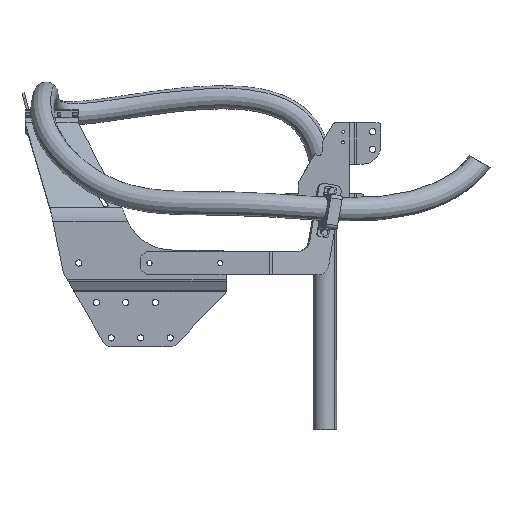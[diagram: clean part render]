
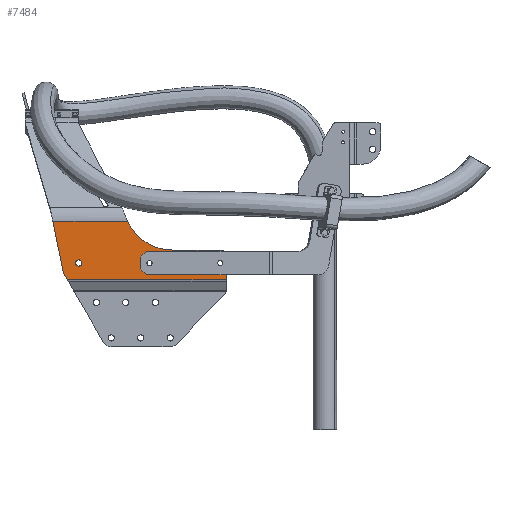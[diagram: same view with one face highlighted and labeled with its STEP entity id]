
A CAD part, front view. The second image highlights one B-rep face of the part: STEP entity #7484.
In plain terms, the highlighted planar face has unit normal (0, -1, 0).
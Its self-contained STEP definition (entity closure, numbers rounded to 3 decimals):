
#409 = CARTESIAN_POINT ( 'NONE',  ( -298.5, -470., 611.9 ) ) ;
#447 = LINE ( 'NONE', #8431, #20491 ) ;
#467 = ORIENTED_EDGE ( 'NONE', *, *, #16594, .F. ) ;
#2278 = EDGE_CURVE ( 'NONE', #56943, #41839, #48140, .T. ) ;
#2710 = CARTESIAN_POINT ( 'NONE',  ( -249.093, -470., 733.9 ) ) ;
#3589 = DIRECTION ( 'NONE',  ( 1., 0., 0. ) ) ;
#4500 = CARTESIAN_POINT ( 'NONE',  ( -303.5, -470., 616.9 ) ) ;
#5377 = CIRCLE ( 'NONE', #86629, 5.25 ) ;
#6746 = ORIENTED_EDGE ( 'NONE', *, *, #17836, .T. ) ;
#7233 = EDGE_CURVE ( 'NONE', #52654, #29468, #72041, .T. ) ;
#7484 = ADVANCED_FACE ( 'NONE', ( #50785, #44176 ), #79985, .T. ) ;
#7767 = AXIS2_PLACEMENT_3D ( 'NONE', #23915, #73407, #44661 ) ;
#7890 = DIRECTION ( 'NONE',  ( 0., -1., 0. ) ) ;
#8053 = CARTESIAN_POINT ( 'NONE',  ( -162.5, -470., 646.9 ) ) ;
#8364 = CARTESIAN_POINT ( 'NONE',  ( -158.5, -470., 598.317 ) ) ;
#8431 = CARTESIAN_POINT ( 'NONE',  ( -303.5, -470., 646.9 ) ) ;
#8918 = VERTEX_POINT ( 'NONE', #17775 ) ;
#10873 = CARTESIAN_POINT ( 'NONE',  ( -427.642, -470., 598.317 ) ) ;
#11293 = ORIENTED_EDGE ( 'NONE', *, *, #51828, .F. ) ;
#11727 = ORIENTED_EDGE ( 'NONE', *, *, #85748, .F. ) ;
#11741 = CARTESIAN_POINT ( 'NONE',  ( 15., -470., 606.9 ) ) ;
#12187 = LINE ( 'NONE', #11741, #67946 ) ;
#12343 = CIRCLE ( 'NONE', #7767, 10. ) ;
#14765 = LINE ( 'NONE', #51062, #61580 ) ;
#14950 = DIRECTION ( 'NONE',  ( 1., 0., 0. ) ) ;
#14963 = DIRECTION ( 'NONE',  ( 0., 0., -1. ) ) ;
#15368 = CIRCLE ( 'NONE', #51513, 5.25 ) ;
#16594 = EDGE_CURVE ( 'NONE', #21381, #49268, #35985, .T. ) ;
#17775 = CARTESIAN_POINT ( 'NONE',  ( -303.5, -470., 636.9 ) ) ;
#17836 = EDGE_CURVE ( 'NONE', #8918, #29799, #14765, .T. ) ;
#18018 = CARTESIAN_POINT ( 'NONE',  ( -293.5, -470., 606.9 ) ) ;
#19085 = CARTESIAN_POINT ( 'NONE',  ( -408.5, -470., 626.9 ) ) ;
#20064 = VECTOR ( 'NONE', #34011, 1000. ) ;
#20287 = CARTESIAN_POINT ( 'NONE',  ( -420.166, -470., 615.369 ) ) ;
#20491 = VECTOR ( 'NONE', #57940, 1000. ) ;
#21381 = VERTEX_POINT ( 'NONE', #10873 ) ;
#21450 = ORIENTED_EDGE ( 'NONE', *, *, #81613, .F. ) ;
#21938 = ORIENTED_EDGE ( 'NONE', *, *, #81849, .T. ) ;
#21949 = ORIENTED_EDGE ( 'NONE', *, *, #57577, .F. ) ;
#22019 = EDGE_LOOP ( 'NONE', ( #21949, #36875, #53515, #6746, #11727, #30140, #21938, #61354, #37453, #39391, #30739, #467, #24869, #72450 ) ) ;
#23432 = DIRECTION ( 'NONE',  ( 0., 1., 0. ) ) ;
#23664 = CARTESIAN_POINT ( 'NONE',  ( -434.855, -470., 612.331 ) ) ;
#23904 = DIRECTION ( 'NONE',  ( 0., 0., 1. ) ) ;
#23915 = CARTESIAN_POINT ( 'NONE',  ( -168.5, -470., 638.9 ) ) ;
#24869 = ORIENTED_EDGE ( 'NONE', *, *, #44279, .F. ) ;
#29468 = VERTEX_POINT ( 'NONE', #4500 ) ;
#29799 = VERTEX_POINT ( 'NONE', #62449 ) ;
#30140 = ORIENTED_EDGE ( 'NONE', *, *, #47712, .T. ) ;
#30739 = ORIENTED_EDGE ( 'NONE', *, *, #53585, .T. ) ;
#30880 = EDGE_LOOP ( 'NONE', ( #11293, #21450 ) ) ;
#33681 = CARTESIAN_POINT ( 'NONE',  ( -413.75, -470., 626.9 ) ) ;
#34011 = DIRECTION ( 'NONE',  ( -1., 0., 0. ) ) ;
#34913 = DIRECTION ( 'NONE',  ( 0.203, 0., -0.979 ) ) ;
#35714 = CARTESIAN_POINT ( 'NONE',  ( -303.5, -470., 606.9 ) ) ;
#35985 = LINE ( 'NONE', #71355, #55421 ) ;
#36875 = ORIENTED_EDGE ( 'NONE', *, *, #7233, .T. ) ;
#37453 = ORIENTED_EDGE ( 'NONE', *, *, #77022, .T. ) ;
#39391 = ORIENTED_EDGE ( 'NONE', *, *, #2278, .T. ) ;
#41839 = VERTEX_POINT ( 'NONE', #23664 ) ;
#43291 = DIRECTION ( 'NONE',  ( -0.707, 0., 0.707 ) ) ;
#44176 = FACE_BOUND ( 'NONE', #30880, .T. ) ;
#44190 = CARTESIAN_POINT ( 'NONE',  ( -158.5, -470., 646.319 ) ) ;
#44279 = EDGE_CURVE ( 'NONE', #60454, #21381, #85787, .T. ) ;
#44661 = DIRECTION ( 'NONE',  ( 1., 0., 0. ) ) ;
#45394 = VECTOR ( 'NONE', #14963, 1000. ) ;
#47035 = CIRCLE ( 'NONE', #59049, 15. ) ;
#47253 = CARTESIAN_POINT ( 'NONE',  ( -408.5, -470., 484.9 ) ) ;
#47685 = CARTESIAN_POINT ( 'NONE',  ( -158.5, -470., 606.9 ) ) ;
#47712 = EDGE_CURVE ( 'NONE', #77471, #88469, #12343, .T. ) ;
#48140 = LINE ( 'NONE', #47253, #70276 ) ;
#48471 = CARTESIAN_POINT ( 'NONE',  ( -452.435, -470., 697.334 ) ) ;
#49050 = CARTESIAN_POINT ( 'NONE',  ( -249.093, -470., 598.317 ) ) ;
#49268 = VERTEX_POINT ( 'NONE', #62528 ) ;
#49887 = VECTOR ( 'NONE', #63661, 1000. ) ;
#50785 = FACE_OUTER_BOUND ( 'NONE', #22019, .T. ) ;
#51062 = CARTESIAN_POINT ( 'NONE',  ( -318.5, -470., 621.9 ) ) ;
#51341 = CARTESIAN_POINT ( 'NONE',  ( -168.5, -470., 648.9 ) ) ;
#51513 = AXIS2_PLACEMENT_3D ( 'NONE', #90241, #75664, #53055 ) ;
#51828 = EDGE_CURVE ( 'NONE', #92739, #81751, #15368, .T. ) ;
#52528 = CARTESIAN_POINT ( 'NONE',  ( -403.25, -470., 626.9 ) ) ;
#52654 = VERTEX_POINT ( 'NONE', #18018 ) ;
#52674 = DIRECTION ( 'NONE',  ( 1., 0., 0. ) ) ;
#53055 = DIRECTION ( 'NONE',  ( 1., 0., 0. ) ) ;
#53515 = ORIENTED_EDGE ( 'NONE', *, *, #58746, .F. ) ;
#53585 = EDGE_CURVE ( 'NONE', #41839, #49268, #47035, .T. ) ;
#54018 = DIRECTION ( 'NONE',  ( -1., 0., 0. ) ) ;
#55421 = VECTOR ( 'NONE', #92072, 1000. ) ;
#56127 = DIRECTION ( 'NONE',  ( 1., 0., 0. ) ) ;
#56943 = VERTEX_POINT ( 'NONE', #48471 ) ;
#57577 = EDGE_CURVE ( 'NONE', #52654, #64368, #12187, .T. ) ;
#57940 = DIRECTION ( 'NONE',  ( -1., 0., 0. ) ) ;
#58746 = EDGE_CURVE ( 'NONE', #8918, #29468, #79536, .T. ) ;
#59049 = AXIS2_PLACEMENT_3D ( 'NONE', #20287, #76854, #56127 ) ;
#60380 = EDGE_CURVE ( 'NONE', #60454, #64368, #88461, .T. ) ;
#60454 = VERTEX_POINT ( 'NONE', #8364 ) ;
#60479 = EDGE_CURVE ( 'NONE', #65846, #85087, #80022, .T. ) ;
#60618 = DIRECTION ( 'NONE',  ( 0., -1., 0. ) ) ;
#61354 = ORIENTED_EDGE ( 'NONE', *, *, #60479, .T. ) ;
#61546 = CARTESIAN_POINT ( 'NONE',  ( -249.093, -470., 648.9 ) ) ;
#61580 = VECTOR ( 'NONE', #73203, 1000. ) ;
#62449 = CARTESIAN_POINT ( 'NONE',  ( -293.5, -470., 646.9 ) ) ;
#62528 = CARTESIAN_POINT ( 'NONE',  ( -433.156, -470., 607.869 ) ) ;
#63661 = DIRECTION ( 'NONE',  ( -1., 0., 0. ) ) ;
#64162 = LINE ( 'NONE', #69842, #20064 ) ;
#64368 = VERTEX_POINT ( 'NONE', #47685 ) ;
#65846 = VERTEX_POINT ( 'NONE', #80127 ) ;
#67946 = VECTOR ( 'NONE', #68336, 1000. ) ;
#68336 = DIRECTION ( 'NONE',  ( 1., 0., 0. ) ) ;
#69060 = LINE ( 'NONE', #61546, #77612 ) ;
#69842 = CARTESIAN_POINT ( 'NONE',  ( -249.093, -470., 697.334 ) ) ;
#70276 = VECTOR ( 'NONE', #34913, 1000. ) ;
#71355 = CARTESIAN_POINT ( 'NONE',  ( -440.596, -470., 620.754 ) ) ;
#72041 = LINE ( 'NONE', #409, #76350 ) ;
#72450 = ORIENTED_EDGE ( 'NONE', *, *, #60380, .T. ) ;
#72456 = CARTESIAN_POINT ( 'NONE',  ( -249.093, -470., 731.319 ) ) ;
#73203 = DIRECTION ( 'NONE',  ( 0.707, 0., 0.707 ) ) ;
#73407 = DIRECTION ( 'NONE',  ( 0., -1., 0. ) ) ;
#75664 = DIRECTION ( 'NONE',  ( 0., -1., 0. ) ) ;
#76350 = VECTOR ( 'NONE', #43291, 1000. ) ;
#76854 = DIRECTION ( 'NONE',  ( 0., -1., 0. ) ) ;
#77022 = EDGE_CURVE ( 'NONE', #85087, #56943, #64162, .T. ) ;
#77471 = VERTEX_POINT ( 'NONE', #8053 ) ;
#77612 = VECTOR ( 'NONE', #54018, 1000. ) ;
#78540 = VECTOR ( 'NONE', #23904, 1000. ) ;
#79536 = LINE ( 'NONE', #35714, #45394 ) ;
#79985 = PLANE ( 'NONE',  #88375 ) ;
#80022 = CIRCLE ( 'NONE', #92042, 85. ) ;
#80073 = CARTESIAN_POINT ( 'NONE',  ( -325.825, -470., 697.334 ) ) ;
#80127 = CARTESIAN_POINT ( 'NONE',  ( -249.093, -470., 648.9 ) ) ;
#81613 = EDGE_CURVE ( 'NONE', #81751, #92739, #5377, .T. ) ;
#81751 = VERTEX_POINT ( 'NONE', #33681 ) ;
#81849 = EDGE_CURVE ( 'NONE', #88469, #65846, #69060, .T. ) ;
#85087 = VERTEX_POINT ( 'NONE', #80073 ) ;
#85748 = EDGE_CURVE ( 'NONE', #77471, #29799, #447, .T. ) ;
#85787 = LINE ( 'NONE', #49050, #49887 ) ;
#86629 = AXIS2_PLACEMENT_3D ( 'NONE', #19085, #60618, #3589 ) ;
#88375 = AXIS2_PLACEMENT_3D ( 'NONE', #72456, #7890, #14950 ) ;
#88461 = LINE ( 'NONE', #44190, #78540 ) ;
#88469 = VERTEX_POINT ( 'NONE', #51341 ) ;
#90241 = CARTESIAN_POINT ( 'NONE',  ( -408.5, -470., 626.9 ) ) ;
#92042 = AXIS2_PLACEMENT_3D ( 'NONE', #2710, #23432, #52674 ) ;
#92072 = DIRECTION ( 'NONE',  ( -0.5, 0., 0.866 ) ) ;
#92739 = VERTEX_POINT ( 'NONE', #52528 ) ;
